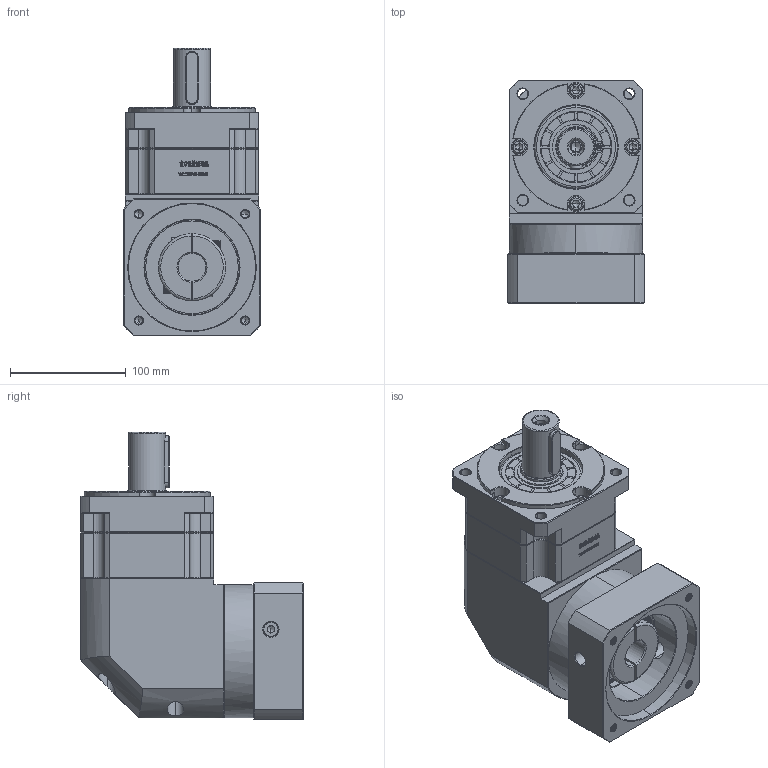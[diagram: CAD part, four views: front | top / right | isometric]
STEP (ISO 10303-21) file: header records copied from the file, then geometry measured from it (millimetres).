
FILE_DESCRIPTION (( 'STEP AP214' ), '1' );
FILE_NAME ('ZBR115A-D32-L1-24-110-130-M8.step', '2023-03-03T05:00:37', ( '' ), ( 'Microsoft' ), 'SwSTEP 2.0', 'SolidWorks 2016', '' );
FILE_SCHEMA (( 'AUTOMOTIVE_DESIGN' ));
Length unit declared in the file: millimetre
Products named in the file (1): ZBR115A-D32-L1-24-110-130-M8
Bounding box: 118 x 192.4 x 248 mm (x, y, z)
Volume: 2949548 mm3; surface area: 248065.7 mm2
Topology: 6 solids, 6 shells, 2982 faces, 7923 edges, 5087 vertices
Faces by surface type: plane 1559, bspline 606, cylinder 439, cone 370, torus 8
Entity records: 162116 total; most frequent: CARTESIAN_POINT 60064, ORIENTED_EDGE 15786, DIRECTION 11958, EDGE_CURVE 7893, LINE 5308, VECTOR 5308, VERTEX_POINT 5087, AXIS2_PLACEMENT_3D 3325
